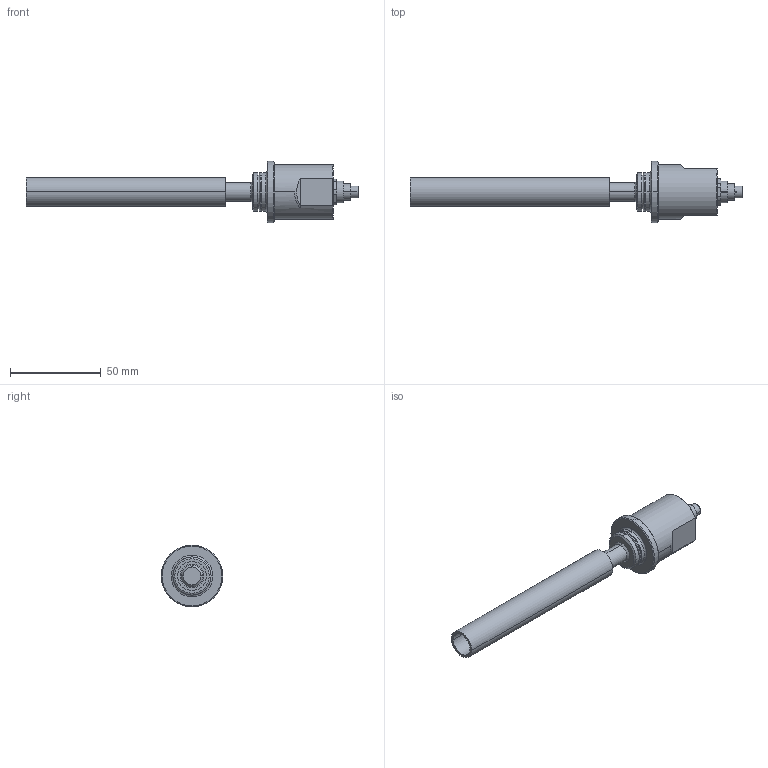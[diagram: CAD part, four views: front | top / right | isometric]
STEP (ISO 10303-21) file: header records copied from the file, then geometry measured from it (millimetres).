
FILE_DESCRIPTION((''),'2;1');
FILE_NAME('EDS-75-S-SA7_MIT_ROHR_ASM','2015-03-25T',('11000065'),(''),'PRO/ENGINEER BY PARAMETRIC TECHNOLOGY CORPORATION, 2013230','PRO/ENGINEER BY PARAMETRIC TECHNOLOGY CORPORATION, 2013230','');
FILE_SCHEMA(('AUTOMOTIVE_DESIGN { 1 0 10303 214 1 1 1 1 }'));
Length unit declared in the file: millimetre
Products named in the file (4): EDS-75-S-SA7; MESSROHR; O-RING-18X1_5; EDS-75-S-SA7_MIT_ROHR_ASM
Assembly tree (3 placements, depth 2):
  EDS-75-S-SA7_MIT_ROHR_ASM
    EDS-75-S-SA7
    MESSROHR
    O-RING-18X1_5
Bounding box: 183.19 x 34 x 34 mm (x, y, z)
Volume: 45530.8 mm3; surface area: 20718 mm2
Topology: 3 solids, 11 shells, 199 faces, 468 edges, 298 vertices
Faces by surface type: cylinder 93, plane 55, cone 20, sphere 14, torus 13, bspline 4
Entity records: 7787 total; most frequent: CARTESIAN_POINT 1322, DIRECTION 1092, ORIENTED_EDGE 908, AXIS2_PLACEMENT_3D 469, PRESENTATION_STYLE_ASSIGNMENT 468, STYLED_ITEM 457, CURVE_STYLE 454, EDGE_CURVE 454
